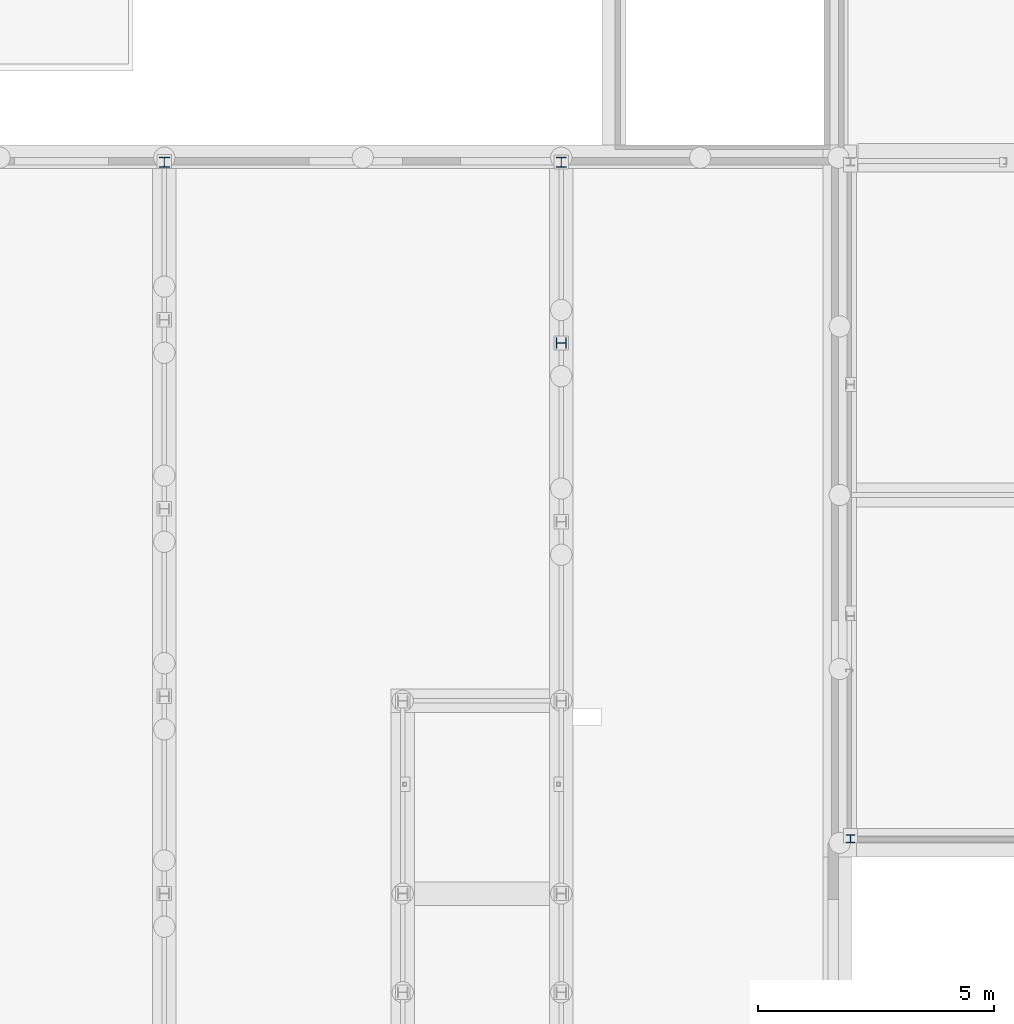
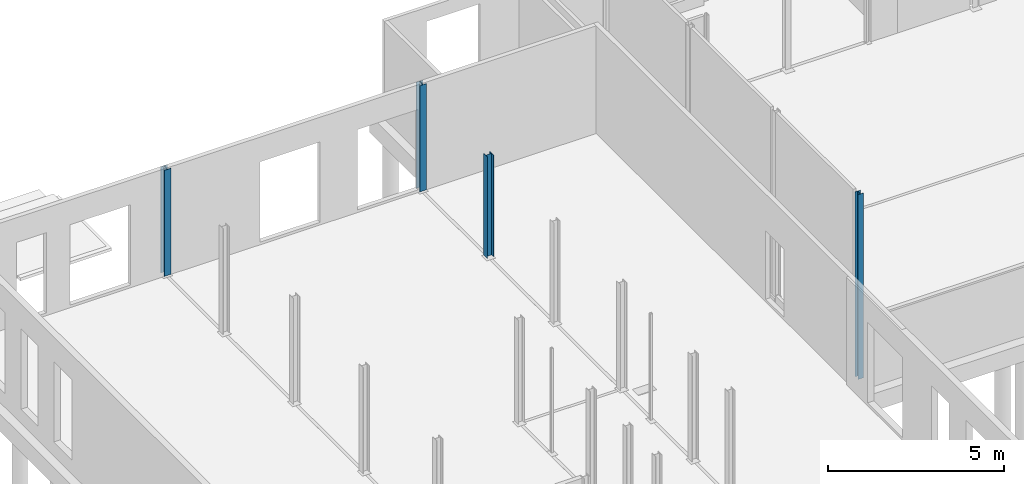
# One storey, part 4 of 18: 4 columns.
"""IFC2X3 building model written with IfcOpenShell, lengths in millimetres."""

from ifc_helpers import new_model, entity, si_unit, converted_unit, derived_unit, direction, frame, frame_2d, origin, place, context, subcontext, project, spatial, polyline, circle_curve, parameter, trimmed, segment, composite_curve, i_section, outline, extrude, source, transform, mapped, material, type_object, type_shapes, element, save


model = new_model("IFC2X3")

# Units and contexts
model_context = context("Model", 3, precision=0.01, world=origin(), true_north=direction((6.12303176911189e-17, 1.0)))
body_context = subcontext(model_context, "Body", "Model", "MODEL_VIEW")
ifc_project = project(units=[si_unit("LENGTHUNIT", "METRE", prefix="MILLI"), si_unit("AREAUNIT", "SQUARE_METRE"), si_unit("VOLUMEUNIT", "CUBIC_METRE"), converted_unit("PLANEANGLEUNIT", "DEGREE", entity("IfcRatioMeasure", 0.0174532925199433), si_unit("PLANEANGLEUNIT", "RADIAN"), dimensions=[0, 0, 0, 0, 0, 0, 0]), si_unit("MASSUNIT", "GRAM", prefix="KILO"), derived_unit("MASSDENSITYUNIT", [(si_unit("MASSUNIT", "GRAM", prefix="KILO"), 1), (si_unit("LENGTHUNIT", "METRE"), -3)]), derived_unit("MOMENTOFINERTIAUNIT", [(si_unit("LENGTHUNIT", "METRE"), 4)]), si_unit("TIMEUNIT", "SECOND"), si_unit("FREQUENCYUNIT", "HERTZ"), si_unit("THERMODYNAMICTEMPERATUREUNIT", "DEGREE_CELSIUS"), derived_unit("THERMALTRANSMITTANCEUNIT", [(si_unit("MASSUNIT", "GRAM", prefix="KILO"), 1), (si_unit("THERMODYNAMICTEMPERATUREUNIT", "KELVIN"), -1), (si_unit("TIMEUNIT", "SECOND"), -3)]), derived_unit("VOLUMETRICFLOWRATEUNIT", [(si_unit("LENGTHUNIT", "METRE"), 3), (si_unit("TIMEUNIT", "SECOND"), -1)]), si_unit("ELECTRICCURRENTUNIT", "AMPERE"), si_unit("ELECTRICVOLTAGEUNIT", "VOLT"), si_unit("POWERUNIT", "WATT"), si_unit("FORCEUNIT", "NEWTON", prefix="KILO"), si_unit("ILLUMINANCEUNIT", "LUX"), si_unit("LUMINOUSFLUXUNIT", "LUMEN"), si_unit("LUMINOUSINTENSITYUNIT", "CANDELA"), derived_unit("USERDEFINED", [(si_unit("MASSUNIT", "GRAM", prefix="KILO"), -1), (si_unit("LENGTHUNIT", "METRE"), -2), (si_unit("TIMEUNIT", "SECOND"), 3), (si_unit("LUMINOUSFLUXUNIT", "LUMEN"), 1)]), derived_unit("LINEARVELOCITYUNIT", [(si_unit("LENGTHUNIT", "METRE"), 1), (si_unit("TIMEUNIT", "SECOND"), -1)]), si_unit("PRESSUREUNIT", "PASCAL"), derived_unit("USERDEFINED", [(si_unit("LENGTHUNIT", "METRE"), -2), (si_unit("MASSUNIT", "GRAM", prefix="KILO"), 1), (si_unit("TIMEUNIT", "SECOND"), -2)]), derived_unit("LINEARFORCEUNIT", [(si_unit("MASSUNIT", "GRAM", prefix="KILO"), 1), (si_unit("LENGTHUNIT", "METRE"), 1), (si_unit("TIMEUNIT", "SECOND"), -2), (si_unit("LENGTHUNIT", "METRE"), -1)]), derived_unit("PLANARFORCEUNIT", [(si_unit("MASSUNIT", "GRAM", prefix="KILO"), 1), (si_unit("LENGTHUNIT", "METRE"), 1), (si_unit("TIMEUNIT", "SECOND"), -2), (si_unit("LENGTHUNIT", "METRE"), -2)])], contexts=[model_context])

# Site, building, storey
site_placement = place(None, origin())
site = spatial("IfcSite", under=ifc_project, at=site_placement, Name="Default", CompositionType="ELEMENT")
building_placement = place(site_placement, origin())
building = spatial("IfcBuilding", under=site, at=building_placement, CompositionType="ELEMENT")
storey_placement = place(building_placement, frame((0.0, 0.0, -1085.0)))
storey = spatial("IfcBuildingStorey", under=building, at=storey_placement, Name="-00 fundatie", CompositionType="ELEMENT", Elevation=-1085.0)

# Columns
ifc_material = material(Name="h2_staal")
column_type_1 = type_object("IfcColumnType", Name="BERSnl_28_SCO_TLB_kolom hea_gen_ISR:kolom gen hea220", PredefinedType="COLUMN", material=ifc_material)
shared_shape_1 = source(origin(), body_context, "Body", "SweptSolid", [
    extrude(outline(composite_curve([segment(polyline([(94.0, -110.0), (105.0, -110.0)]), True, "CONTINUOUS"), segment(polyline([(105.0, -110.0), (105.0, 110.0)]), True, "CONTINUOUS"), segment(polyline([(105.0, 110.0), (94.0, 110.0)]), True, "CONTINUOUS"), segment(polyline([(94.0, 110.0), (94.0, 21.5000000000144)]), True, "CONTINUOUS"), segment(trimmed(circle_curve(frame_2d((76.0, 21.5000000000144), x_axis=(1.0, 0.0)), 18.0), [parameter(270.0)], [parameter(0.0)], True, "PARAMETER"), False, "CONTINUOUS"), segment(polyline([(76.0, 3.50000000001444), (-76.0, 3.50000000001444)]), True, "CONTINUOUS"), segment(trimmed(circle_curve(frame_2d((-76.0, 21.5000000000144), x_axis=(0.0, -1.0)), 18.0), [parameter(270.0)], [parameter(0.0)], True, "PARAMETER"), False, "CONTINUOUS"), segment(polyline([(-94.0, 21.5000000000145), (-94.0, 110.0)]), True, "CONTINUOUS"), segment(polyline([(-94.0, 110.0), (-105.0, 110.0)]), True, "CONTINUOUS"), segment(polyline([(-105.0, 110.0), (-105.0, -110.0)]), True, "CONTINUOUS"), segment(polyline([(-105.0, -110.0), (-94.0, -110.0)]), True, "CONTINUOUS"), segment(polyline([(-94.0, -110.0), (-94.0, -21.5000000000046)]), True, "CONTINUOUS"), segment(trimmed(circle_curve(frame_2d((-76.0, -21.5000000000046), x_axis=(-1.0, 0.0)), 18.0), [parameter(269.999999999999)], [parameter(0.0)], True, "PARAMETER"), False, "CONTINUOUS"), segment(polyline([(-76.0, -3.50000000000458), (76.0, -3.50000000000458)]), True, "CONTINUOUS"), segment(trimmed(circle_curve(frame_2d((76.0, -21.5000000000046), x_axis=(0.0, 1.0)), 18.0), [parameter(270.0)], [parameter(0.0)], True, "PARAMETER"), False, "CONTINUOUS"), segment(polyline([(94.0, -21.5000000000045), (94.0, -110.0)]), True, "CONTINUOUS")], self_intersect=False)), frame((0.0, 0.0, -50.0), z_axis=(0.0, 0.0, 1.0), x_axis=(0.0, -1.0, 0.0)), (0.0, 0.0, 1.0), 3685.0),
])
type_shapes(column_type_1, [shared_shape_1])
for number, where, z_axis, x_axis, name in (
    (1, (20569.4349765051, 35402.2966282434, 1085.0), (0.0, 0.0, 1.0), (-1.0, 0.0, 0.0), "BERSnl_28_SCO_TLB_kolom hea_gen_ISR:kolom gen hea220"),
    (2, (28969.4349765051, 35402.2966282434, 1085.0), (0.0, 0.0, 1.0), (-1.0, 0.0, 0.0), "BERSnl_28_SCO_TLB_kolom hea_gen_ISR:kolom gen hea220"),
):
    element("IfcColumn", number, at=place(storey_placement, frame(where, z_axis=z_axis, x_axis=x_axis)), inside=storey, type_object=column_type_1, Name=name, ObjectType="BERSnl_28_SCO_TLB_kolom hea_gen_ISR:kolom gen hea220", context=body_context, shape_type="MappedRepresentation", body=[
        mapped(shared_shape_1, transform((0.0, 0.0, 0.0), scale=1.0)),
    ])
column_type_2 = type_object("IfcColumnType", Name="BERSnl_28_SCO_TLB_kolom hea_gen_ISR:kolom gen hea220", PredefinedType="COLUMN", material=ifc_material)
shared_shape_2 = source(origin(), body_context, "Body", "SweptSolid", [
    extrude(i_section(OverallWidth=220.000000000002, OverallDepth=210.0, WebThickness=7.00000000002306, FlangeThickness=11.0000000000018, FilletRadius=17.9999999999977, at=frame_2d((8.66151594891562e-12, -6.49436060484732e-12), x_axis=(1.0, 0.0))), frame((28969.4349765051, 31572.2966282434, -50.0), z_axis=(0.0, 0.0, 1.0), x_axis=(0.0, -1.0, 0.0)), (0.0, 0.0, 1.0), 3525.0),
])
type_shapes(column_type_2, [shared_shape_2])
column_1_placement = place(storey_placement, frame((0.0, 0.0, 1085.0)))
element("IfcColumn", 3, at=column_1_placement, inside=storey, type_object=column_type_2, Name="BERSnl_28_SCO_TLB_kolom hea_gen_ISR:kolom gen hea220", ObjectType="BERSnl_28_SCO_TLB_kolom hea_gen_ISR:kolom gen hea220", context=body_context, shape_type="MappedRepresentation", body=[
    mapped(shared_shape_2, transform((0.0, 0.0, 0.0), scale=1.0)),
])
column_type_3 = type_object("IfcColumnType", Name="BERSnl_28_SCO_TLB_kolom hea_gen_ISR:kolom gen hea180", PredefinedType="COLUMN", material=ifc_material)
shared_shape_3 = source(origin(), body_context, "Body", "SweptSolid", [
    extrude(outline(composite_curve([segment(polyline([(76.0, -90.0), (85.5, -90.0)]), True, "CONTINUOUS"), segment(polyline([(85.4999999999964, -90.0), (85.4999999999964, 90.0)]), True, "CONTINUOUS"), segment(polyline([(85.4999999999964, 90.0), (76.0, 90.0)]), True, "CONTINUOUS"), segment(polyline([(76.0, 90.0), (76.0, 18.0)]), True, "CONTINUOUS"), segment(trimmed(circle_curve(frame_2d((61.0, 18.0), x_axis=(1.0, 0.0)), 15.000000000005), [parameter(270.000000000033)], [parameter(0.0)], True, "PARAMETER"), False, "CONTINUOUS"), segment(polyline([(61.0, 3.0), (-61.0, 3.0)]), True, "CONTINUOUS"), segment(trimmed(circle_curve(frame_2d((-61.0, 18.0), x_axis=(0.0, -1.0)), 15.000000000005), [parameter(270.000000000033)], [parameter(0.0)], True, "PARAMETER"), False, "CONTINUOUS"), segment(polyline([(-76.0, 18.0), (-76.0, 90.0)]), True, "CONTINUOUS"), segment(polyline([(-76.0, 90.0), (-85.5000000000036, 90.0)]), True, "CONTINUOUS"), segment(polyline([(-85.5, 90.0), (-85.5, -90.0)]), True, "CONTINUOUS"), segment(polyline([(-85.5, -90.0), (-76.0, -90.0)]), True, "CONTINUOUS"), segment(polyline([(-76.0, -90.0), (-76.0, -18.0)]), True, "CONTINUOUS"), segment(trimmed(circle_curve(frame_2d((-61.0, -18.0), x_axis=(-1.0, 0.0)), 15.000000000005), [parameter(270.000000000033)], [parameter(0.0)], True, "PARAMETER"), False, "CONTINUOUS"), segment(polyline([(-61.0, -3.0), (61.0, -3.0)]), True, "CONTINUOUS"), segment(trimmed(circle_curve(frame_2d((61.0, -18.0), x_axis=(0.0, 1.0)), 15.000000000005), [parameter(270.000000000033)], [parameter(0.0)], True, "PARAMETER"), False, "CONTINUOUS"), segment(polyline([(76.0, -18.0), (76.0, -90.0)]), True, "CONTINUOUS")], self_intersect=False)), frame((35089.4270571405, 21081.7966282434, -50.0), z_axis=(0.0, 0.0, 1.0), x_axis=(0.0, -1.0, 0.0)), (0.0, 0.0, 1.0), 6419.99999999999),
])
type_shapes(column_type_3, [shared_shape_3])
column_2_placement = place(storey_placement, frame((0.0, 0.0, 1085.0)))
element("IfcColumn", 4, at=column_2_placement, inside=storey, type_object=column_type_3, Name="BERSnl_28_SCO_TLB_kolom hea_gen_ISR:kolom gen hea180", ObjectType="BERSnl_28_SCO_TLB_kolom hea_gen_ISR:kolom gen hea180", context=body_context, shape_type="MappedRepresentation", body=[
    mapped(shared_shape_3, transform((0.0, 0.0, 0.0), scale=1.0)),
])

save(model, "model.ifc")
